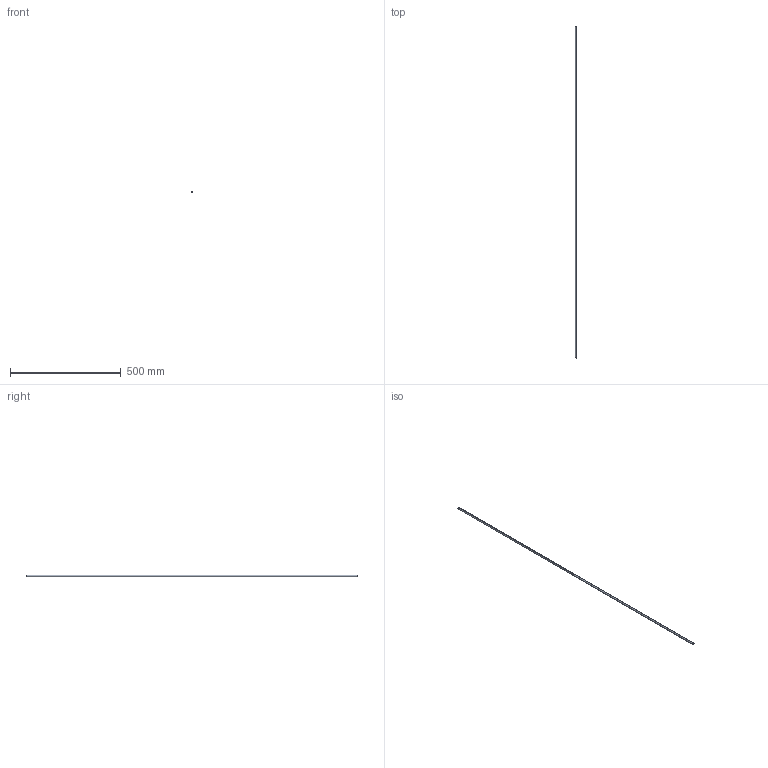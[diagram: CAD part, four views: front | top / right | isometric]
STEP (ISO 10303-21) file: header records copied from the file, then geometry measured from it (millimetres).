
FILE_DESCRIPTION (( 'STEP AP214' ), '1' );
FILE_NAME ('PST8-1500.STEP', '2019-10-29T08:57:15', ( '微软用户' ), ( '微软中国' ), 'SwSTEP 2.0', 'SolidWorks 2016', '' );
FILE_SCHEMA (( 'AUTOMOTIVE_DESIGN' ));
Length unit declared in the file: millimetre
Products named in the file (1): PST8-1500
Bounding box: 8 x 1500 x 8 mm (x, y, z)
Volume: 20923 mm3; surface area: 69771.3 mm2
Topology: 1 solids, 1 shells, 6 faces, 12 edges, 8 vertices
Faces by surface type: cylinder 4, plane 2
Entity records: 202 total; most frequent: DIRECTION 34, CARTESIAN_POINT 27, ORIENTED_EDGE 24, AXIS2_PLACEMENT_3D 15, EDGE_CURVE 12, CIRCLE 8, VERTEX_POINT 8, EDGE_LOOP 8
